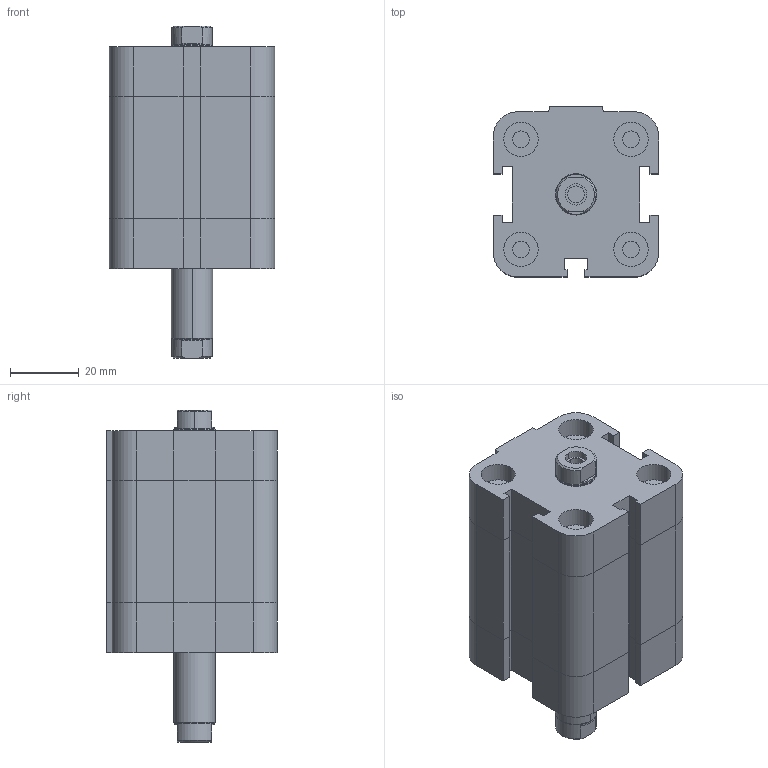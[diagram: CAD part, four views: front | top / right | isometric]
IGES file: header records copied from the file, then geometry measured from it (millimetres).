
Global section: file name: No Iges File Name specified; native system: Autodesk Inventor 2009; preprocessor: AutoDesk Inventor Iges Exporter R2009; author: maffial1; date: 20090420.200525; units: millimetre
Bounding box: 48 x 49.5 x 96.5 mm (x, y, z)
Volume: 131849.2 mm3; surface area: 29074.7 mm2
Topology: 2 solids, 2 shells, 202 faces, 450 edges, 274 vertices
Faces by surface type: plane 114, bspline 42, revolution 20, cylinder 18, cone 8
